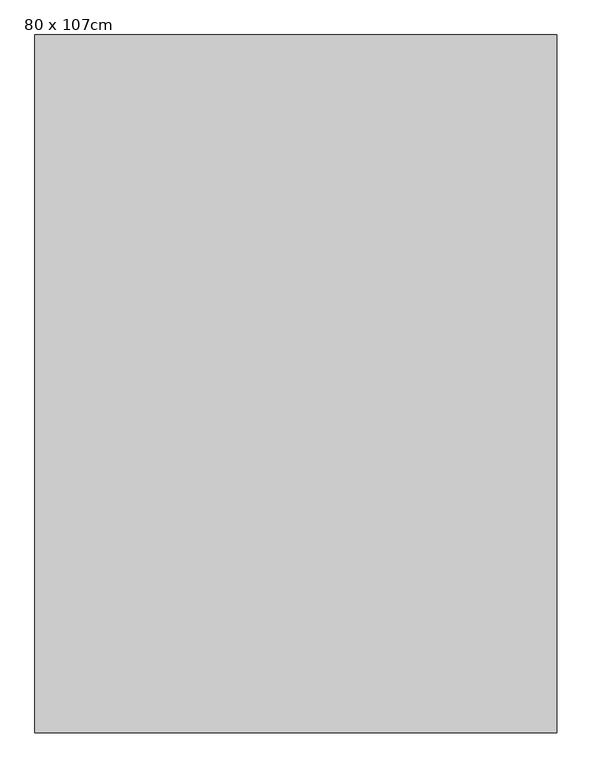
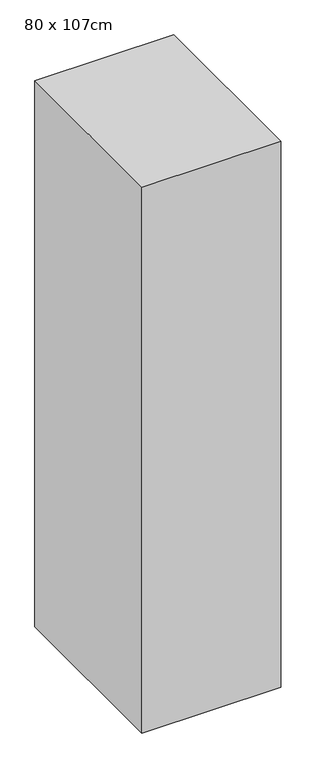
"""IFC4 building model written with IfcOpenShell, lengths in millimetres: column geometry, 混凝土柱-矩形 : 80 x 107cm."""

from ifc_helpers import new_model, si_unit, origin, origin_with_axes, place, context, project, spatial, polyline, outline, extrude, source, transform, mapped, element, save


def column_80_x_107cm_b52650c9(model_context):
    return source(origin(), model_context, "Body", "SweptSolid", [
        extrude(outline(polyline([(400.0, 535.0), (400.0, -535.0), (-400.0, -535.0), (-400.0, 535.0), (400.0, 535.0)])), origin_with_axes(), (0.0, 0.0, 1.0), 3330.0),
    ])


if __name__ == "__main__":
    model = new_model("IFC4")
    model_context = context("Model", 3, world=origin())
    ifc_project = project(units=[si_unit("LENGTHUNIT", "METRE", prefix="MILLI")], contexts=[model_context])
    site = spatial("IfcSite", under=ifc_project)
    building = spatial("IfcBuilding", under=site)
    placement = place(None, origin())
    column_80_x_107cm_shape = column_80_x_107cm_b52650c9(model_context)
    element("IfcColumn", 1, ObjectType="混凝土柱-矩形 : 80 x 107cm", at=placement, inside=building, context=model_context, shape_type="MappedRepresentation", body=[
        mapped(column_80_x_107cm_shape, transform((0.0, 0.0, 0.0), x_axis=(1.0, 0.0, 0.0), y_axis=(0.0, 1.0, 0.0), z_axis=(0.0, 0.0, 1.0))),
    ])
    save(model, "model.ifc")
